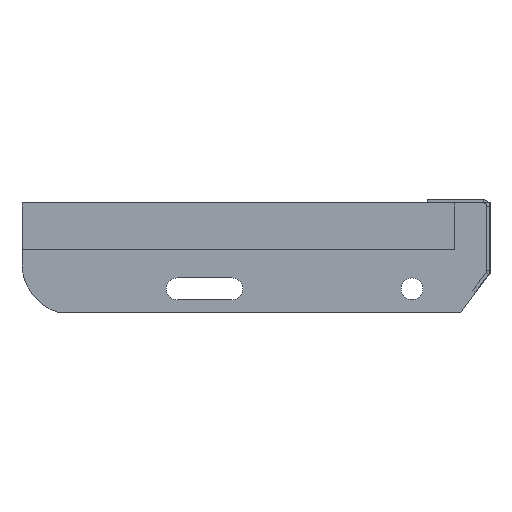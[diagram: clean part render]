
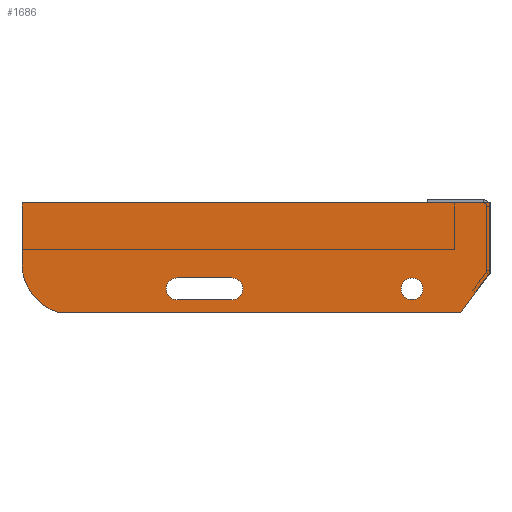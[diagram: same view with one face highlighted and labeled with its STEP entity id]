
A CAD part, left-side view. The second image highlights one B-rep face of the part: STEP entity #1686.
In plain terms, the highlighted planar face has unit normal (-1, 0, 0) as drawn and (0, 0, 1) by its records, which use the part's own axes.
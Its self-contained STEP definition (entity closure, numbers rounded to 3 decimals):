
#4 = CARTESIAN_POINT ( 'NONE',  ( -207.5, -55., 3. ) ) ;
#24 = CARTESIAN_POINT ( 'NONE',  ( -300., -39., 3. ) ) ;
#35 = VERTEX_POINT ( 'NONE', #102 ) ;
#53 = VECTOR ( 'NONE', #318, 1000. ) ;
#63 = CARTESIAN_POINT ( 'NONE',  ( -300., 0., 3. ) ) ;
#66 = CARTESIAN_POINT ( 'NONE',  ( -165.5, -55., 3. ) ) ;
#70 = EDGE_CURVE ( 'NONE', #658, #395, #1810, .T. ) ;
#82 = ORIENTED_EDGE ( 'NONE', *, *, #469, .F. ) ;
#86 = ORIENTED_EDGE ( 'NONE', *, *, #1321, .F. ) ;
#102 = CARTESIAN_POINT ( 'NONE',  ( -165.5, -48., 3. ) ) ;
#125 = DIRECTION ( 'NONE',  ( 1., 0., 0. ) ) ;
#140 = VERTEX_POINT ( 'NONE', #868 ) ;
#145 = ORIENTED_EDGE ( 'NONE', *, *, #1390, .T. ) ;
#156 = CARTESIAN_POINT ( 'NONE',  ( -200.5, -55., 3. ) ) ;
#159 = CARTESIAN_POINT ( 'NONE',  ( -200.5, -48., 3. ) ) ;
#195 = DIRECTION ( 'NONE',  ( 0., 0., 1. ) ) ;
#228 = DIRECTION ( 'NONE',  ( 1., 0., 0. ) ) ;
#235 = CARTESIAN_POINT ( 'NONE',  ( 0., 0., 3. ) ) ;
#247 = AXIS2_PLACEMENT_3D ( 'NONE', #477, #1406, #602 ) ;
#248 = ORIENTED_EDGE ( 'NONE', *, *, #1451, .T. ) ;
#258 = CARTESIAN_POINT ( 'NONE',  ( -18.839, -70., 3. ) ) ;
#266 = ORIENTED_EDGE ( 'NONE', *, *, #70, .F. ) ;
#267 = LINE ( 'NONE', #235, #642 ) ;
#276 = DIRECTION ( 'NONE',  ( 0., 1., 0. ) ) ;
#298 = DIRECTION ( 'NONE',  ( 1., 0., 0. ) ) ;
#318 = DIRECTION ( 'NONE',  ( -1., 0., 0. ) ) ;
#332 = ORIENTED_EDGE ( 'NONE', *, *, #1571, .T. ) ;
#342 = DIRECTION ( 'NONE',  ( 0.602, 0.799, 0. ) ) ;
#370 = FACE_BOUND ( 'NONE', #894, .T. ) ;
#395 = VERTEX_POINT ( 'NONE', #1421 ) ;
#455 = EDGE_CURVE ( 'NONE', #1609, #35, #1193, .T. ) ;
#469 = EDGE_CURVE ( 'NONE', #395, #658, #1456, .T. ) ;
#477 = CARTESIAN_POINT ( 'NONE',  ( -267.5, -39., 3. ) ) ;
#502 = ORIENTED_EDGE ( 'NONE', *, *, #1095, .F. ) ;
#514 = AXIS2_PLACEMENT_3D ( 'NONE', #66, #1477, #1486 ) ;
#517 = EDGE_CURVE ( 'NONE', #1966, #2007, #866, .T. ) ;
#520 = DIRECTION ( 'NONE',  ( 0., 0., 1. ) ) ;
#544 = ORIENTED_EDGE ( 'NONE', *, *, #1899, .F. ) ;
#568 = DIRECTION ( 'NONE',  ( 1., 0., 0. ) ) ;
#585 = LINE ( 'NONE', #1332, #769 ) ;
#602 = DIRECTION ( 'NONE',  ( 1., 0., 0. ) ) ;
#614 = CARTESIAN_POINT ( 'NONE',  ( -200.5, -62., 3. ) ) ;
#617 = LINE ( 'NONE', #1244, #53 ) ;
#642 = VECTOR ( 'NONE', #276, 1000. ) ;
#658 = VERTEX_POINT ( 'NONE', #740 ) ;
#665 = VERTEX_POINT ( 'NONE', #258 ) ;
#676 = DIRECTION ( 'NONE',  ( 0., -1., 0. ) ) ;
#689 = DIRECTION ( 'NONE',  ( 1., 0., 0. ) ) ;
#740 = CARTESIAN_POINT ( 'NONE',  ( -57., -55., 3. ) ) ;
#755 = DIRECTION ( 'NONE',  ( 0., 0., 1. ) ) ;
#767 = CARTESIAN_POINT ( 'NONE',  ( -18.839, -70., 3. ) ) ;
#769 = VECTOR ( 'NONE', #125, 1000. ) ;
#807 = AXIS2_PLACEMENT_3D ( 'NONE', #1776, #520, #1471 ) ;
#813 = EDGE_CURVE ( 'NONE', #665, #1220, #1256, .T. ) ;
#816 = CARTESIAN_POINT ( 'NONE',  ( -200.5, -48., 3. ) ) ;
#818 = DIRECTION ( 'NONE',  ( 0., 0., 1. ) ) ;
#850 = FACE_OUTER_BOUND ( 'NONE', #1447, .T. ) ;
#853 = CARTESIAN_POINT ( 'NONE',  ( -50., -55., 3. ) ) ;
#866 = CIRCLE ( 'NONE', #1358, 7. ) ;
#867 = VECTOR ( 'NONE', #342, 1000. ) ;
#868 = CARTESIAN_POINT ( 'NONE',  ( 0., 0., 3. ) ) ;
#870 = AXIS2_PLACEMENT_3D ( 'NONE', #156, #755, #921 ) ;
#884 = ORIENTED_EDGE ( 'NONE', *, *, #1269, .T. ) ;
#894 = EDGE_LOOP ( 'NONE', ( #86, #1904, #544, #502, #1467 ) ) ;
#921 = DIRECTION ( 'NONE',  ( 1., 0., 0. ) ) ;
#926 = EDGE_LOOP ( 'NONE', ( #266, #82 ) ) ;
#981 = VERTEX_POINT ( 'NONE', #1942 ) ;
#1095 = EDGE_CURVE ( 'NONE', #35, #1457, #1590, .T. ) ;
#1123 = CARTESIAN_POINT ( 'NONE',  ( -165.5, -62., 3. ) ) ;
#1130 = CIRCLE ( 'NONE', #247, 32.5 ) ;
#1177 = CARTESIAN_POINT ( 'NONE',  ( -50., -55., 3. ) ) ;
#1193 = CIRCLE ( 'NONE', #514, 7. ) ;
#1220 = VERTEX_POINT ( 'NONE', #1511 ) ;
#1227 = AXIS2_PLACEMENT_3D ( 'NONE', #1177, #1316, #568 ) ;
#1244 = CARTESIAN_POINT ( 'NONE',  ( 0., 0., 3. ) ) ;
#1256 = LINE ( 'NONE', #1577, #867 ) ;
#1269 = EDGE_CURVE ( 'NONE', #1220, #140, #267, .T. ) ;
#1272 = CIRCLE ( 'NONE', #870, 7. ) ;
#1316 = DIRECTION ( 'NONE',  ( 0., 0., 1. ) ) ;
#1321 = EDGE_CURVE ( 'NONE', #2007, #1609, #585, .T. ) ;
#1332 = CARTESIAN_POINT ( 'NONE',  ( -200.5, -62., 3. ) ) ;
#1358 = AXIS2_PLACEMENT_3D ( 'NONE', #1579, #818, #228 ) ;
#1390 = EDGE_CURVE ( 'NONE', #981, #665, #1718, .T. ) ;
#1406 = DIRECTION ( 'NONE',  ( 0., 0., 1. ) ) ;
#1421 = CARTESIAN_POINT ( 'NONE',  ( -43., -55., 3. ) ) ;
#1425 = AXIS2_PLACEMENT_3D ( 'NONE', #853, #195, #689 ) ;
#1430 = VECTOR ( 'NONE', #676, 1000. ) ;
#1447 = EDGE_LOOP ( 'NONE', ( #884, #248, #332, #1985, #145, #1449 ) ) ;
#1449 = ORIENTED_EDGE ( 'NONE', *, *, #813, .T. ) ;
#1451 = EDGE_CURVE ( 'NONE', #140, #1568, #617, .T. ) ;
#1455 = FACE_BOUND ( 'NONE', #926, .T. ) ;
#1456 = CIRCLE ( 'NONE', #1425, 7. ) ;
#1457 = VERTEX_POINT ( 'NONE', #159 ) ;
#1464 = VERTEX_POINT ( 'NONE', #24 ) ;
#1465 = LINE ( 'NONE', #63, #1430 ) ;
#1467 = ORIENTED_EDGE ( 'NONE', *, *, #455, .F. ) ;
#1471 = DIRECTION ( 'NONE',  ( 1., 0., 0. ) ) ;
#1477 = DIRECTION ( 'NONE',  ( 0., 0., 1. ) ) ;
#1486 = DIRECTION ( 'NONE',  ( 1., 0., 0. ) ) ;
#1511 = CARTESIAN_POINT ( 'NONE',  ( 0., -45., 3. ) ) ;
#1568 = VERTEX_POINT ( 'NONE', #1921 ) ;
#1571 = EDGE_CURVE ( 'NONE', #1568, #1464, #1465, .T. ) ;
#1577 = CARTESIAN_POINT ( 'NONE',  ( 0., -45., 3. ) ) ;
#1579 = CARTESIAN_POINT ( 'NONE',  ( -200.5, -55., 3. ) ) ;
#1590 = LINE ( 'NONE', #816, #1615 ) ;
#1609 = VERTEX_POINT ( 'NONE', #1123 ) ;
#1610 = PLANE ( 'NONE',  #807 ) ;
#1615 = VECTOR ( 'NONE', #1905, 1000. ) ;
#1686 = ADVANCED_FACE ( 'NONE', ( #850, #1455, #370 ), #1610, .T. ) ;
#1718 = LINE ( 'NONE', #767, #2013 ) ;
#1776 = CARTESIAN_POINT ( 'NONE',  ( -267.5, -39., 3. ) ) ;
#1810 = CIRCLE ( 'NONE', #1227, 7. ) ;
#1899 = EDGE_CURVE ( 'NONE', #1457, #1966, #1272, .T. ) ;
#1904 = ORIENTED_EDGE ( 'NONE', *, *, #517, .F. ) ;
#1905 = DIRECTION ( 'NONE',  ( -1., 0., 0. ) ) ;
#1921 = CARTESIAN_POINT ( 'NONE',  ( -300., 0., 3. ) ) ;
#1942 = CARTESIAN_POINT ( 'NONE',  ( -277.26, -70., 3. ) ) ;
#1960 = EDGE_CURVE ( 'NONE', #1464, #981, #1130, .T. ) ;
#1966 = VERTEX_POINT ( 'NONE', #4 ) ;
#1985 = ORIENTED_EDGE ( 'NONE', *, *, #1960, .T. ) ;
#2007 = VERTEX_POINT ( 'NONE', #614 ) ;
#2013 = VECTOR ( 'NONE', #298, 1000. ) ;
